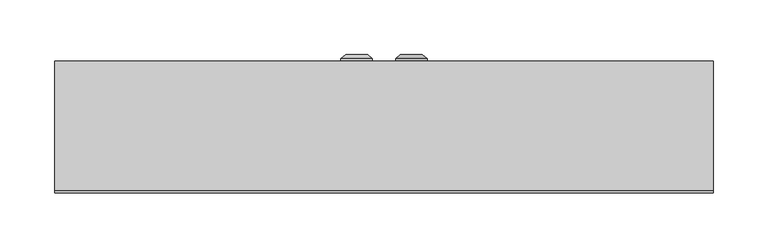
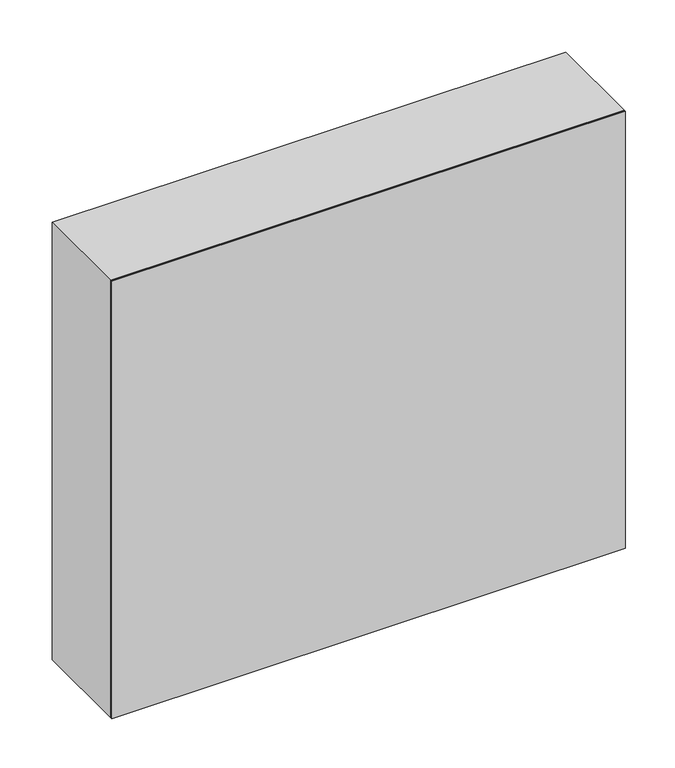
"""IFC4 building model written with IfcOpenShell, lengths in millimetres: proxy geometry, ЩРН_72 : ЩРН-72."""

from ifc_helpers import new_model, si_unit, frame, origin, origin_with_axes, place, context, project, spatial, polyline, circle_curve, outline, extrude, source, transform, mapped, element, save
from ifc_brep_helpers import plane_surface, cylinder_surface, revolved_surface, advanced_brep


def electrical_equipment_fcdb0c0a(model_context):
    return source(origin(), model_context, "Body", "SolidModel", [
        advanced_brep(
        [(-25.0, 120.0, 265.0), (-39.330127, 120.0, 265.0), (-10.669873, 120.0, 265.0), (-39.330127, 122.366592, 265.0), (-10.669873, 122.366592, 265.0), (-35.0, 126.0, 265.0), (-15.0, 126.0, 265.0), (-26.8919529, 126.0, 265.0), (-23.1080471, 126.0, 265.0), (-26.8919529, 124.9822294, 265.0), (-23.1080471, 124.9822294, 265.0), (-25.0, 124.9822294, 265.0)],
        [
            (0, 1),
            (1, 2, circle_curve(frame((-25.0, 120.0, 265.0), z_axis=(0.0, -1.0, 0.0), x_axis=(-1.0, 0.0, 0.0)), 14.330127)),
            (2, 0),
            (2, 1, circle_curve(frame((-25.0, 120.0, 265.0), z_axis=(0.0, -1.0, 0.0), x_axis=(-1.0, 0.0, 0.0)), 14.330127)),
            (1, 3),
            (3, 4, circle_curve(frame((-25.0, 122.366592, 265.0), z_axis=(0.0, -1.0, 0.0), x_axis=(-1.0, 0.0, 0.0)), 14.330127)),
            (4, 2),
            (4, 3, circle_curve(frame((-25.0, 122.366592, 265.0), z_axis=(0.0, -1.0, 0.0), x_axis=(-1.0, 0.0, 0.0)), 14.330127)),
            (3, 5),
            (5, 6, circle_curve(frame((-25.0, 126.0, 265.0), z_axis=(0.0, -1.0, 0.0), x_axis=(-1.0, 0.0, 0.0)), 10.0)),
            (6, 4),
            (6, 5, circle_curve(frame((-25.0, 126.0, 265.0), z_axis=(0.0, -1.0, 0.0), x_axis=(-1.0, 0.0, 0.0)), 10.0)),
            (5, 7),
            (7, 8, circle_curve(frame((-25.0, 126.0, 265.0), z_axis=(0.0, -1.0, 0.0), x_axis=(-1.0, 0.0, 0.0)), 1.8919529)),
            (8, 6),
            (8, 7, circle_curve(frame((-25.0, 126.0, 265.0), z_axis=(0.0, -1.0, 0.0), x_axis=(-1.0, 0.0, 0.0)), 1.8919529)),
            (7, 9),
            (9, 10, circle_curve(frame((-25.0, 124.9822294, 265.0), z_axis=(0.0, -1.0, 0.0), x_axis=(-1.0, 0.0, 0.0)), 1.8919529)),
            (10, 8),
            (10, 9, circle_curve(frame((-25.0, 124.9822294, 265.0), z_axis=(0.0, -1.0, 0.0), x_axis=(-1.0, 0.0, 0.0)), 1.8919529)),
            (9, 11),
            (11, 10),
        ],
        [
            plane_surface(frame((-25.0, 120.0, 265.0), z_axis=(0.0, -1.0, 0.0), x_axis=(-1.0, 0.0, 0.0))),
            cylinder_surface(frame((-25.0, 133.1348851, 265.0), z_axis=(0.0, -1.0, 0.0), x_axis=(-1.0, 0.0, 0.0)), 14.330127),
            revolved_surface(polyline([(-35.0, 126.0, 265.0), (-39.330127, 122.366592, 265.0)]), (-25.0, 133.1348851, 265.0), (0.0, -1.0, 0.0)),
            plane_surface(frame((-25.0, 126.0, 265.0), z_axis=(0.0, 1.0, 0.0), x_axis=(-1.0, 0.0, 0.0))),
            revolved_surface(polyline([(-26.8919529, 124.9822294, 265.0), (-26.8919529, 126.0, 265.0)]), (-25.0, 133.1348851, 265.0), (0.0, -1.0, 0.0)),
            plane_surface(frame((-25.0, 124.9822294, 265.0), z_axis=(0.0, 1.0, 0.0), x_axis=(-1.0, 0.0, 0.0))),
        ],
        [
            (0, [[1, 2, 3]]),
            (0, [[-3, 4, -1]]),
            (1, [[-2, 5, 6, 7]]),
            (1, [[-4, -7, 8, -5]]),
            (2, [[-6, 9, 10, 11]]),
            (2, [[-8, -11, 12, -9]]),
            (3, [[-10, 13, 14, 15]]),
            (3, [[-12, -15, 16, -13]]),
            (4, [[-14, 17, 18, 19]]),
            (4, [[-16, -19, 20, -17]]),
            (5, [[-18, 21, 22]]),
            (5, [[-20, -22, -21]]),
        ],
    ),
        advanced_brep(
        [(10.669873, 120.0, 265.0), (39.330127, 120.0, 265.0), (25.0, 120.0, 265.0), (10.669873, 122.366592, 265.0), (39.330127, 122.366592, 265.0), (15.0, 126.0, 265.0), (35.0, 126.0, 265.0), (23.1080471, 126.0, 265.0), (26.8919529, 126.0, 265.0), (23.1080471, 124.9822294, 265.0), (26.8919529, 124.9822294, 265.0), (25.0, 124.9822294, 265.0)],
        [
            (0, 1, circle_curve(frame((25.0, 120.0, 265.0), z_axis=(0.0, -1.0, 0.0), x_axis=(1.0, 0.0, 0.0)), 14.330127)),
            (1, 2),
            (2, 0),
            (1, 0, circle_curve(frame((25.0, 120.0, 265.0), z_axis=(0.0, -1.0, 0.0), x_axis=(1.0, 0.0, 0.0)), 14.330127)),
            (3, 4, circle_curve(frame((25.0, 122.366592, 265.0), z_axis=(0.0, -1.0, 0.0), x_axis=(1.0, 0.0, 0.0)), 14.330127)),
            (4, 1),
            (0, 3),
            (4, 3, circle_curve(frame((25.0, 122.366592, 265.0), z_axis=(0.0, -1.0, 0.0), x_axis=(1.0, 0.0, 0.0)), 14.330127)),
            (5, 6, circle_curve(frame((25.0, 126.0, 265.0), z_axis=(0.0, -1.0, 0.0), x_axis=(1.0, 0.0, 0.0)), 10.0)),
            (6, 4),
            (3, 5),
            (6, 5, circle_curve(frame((25.0, 126.0, 265.0), z_axis=(0.0, -1.0, 0.0), x_axis=(1.0, 0.0, 0.0)), 10.0)),
            (7, 8, circle_curve(frame((25.0, 126.0, 265.0), z_axis=(0.0, -1.0, 0.0), x_axis=(1.0, 0.0, 0.0)), 1.8919529)),
            (8, 6),
            (5, 7),
            (8, 7, circle_curve(frame((25.0, 126.0, 265.0), z_axis=(0.0, -1.0, 0.0), x_axis=(1.0, 0.0, 0.0)), 1.8919529)),
            (9, 10, circle_curve(frame((25.0, 124.9822294, 265.0), z_axis=(0.0, -1.0, 0.0), x_axis=(1.0, 0.0, 0.0)), 1.8919529)),
            (10, 8),
            (7, 9),
            (10, 9, circle_curve(frame((25.0, 124.9822294, 265.0), z_axis=(0.0, -1.0, 0.0), x_axis=(1.0, 0.0, 0.0)), 1.8919529)),
            (11, 10),
            (9, 11),
        ],
        [
            plane_surface(frame((25.0, 120.0, 265.0), z_axis=(0.0, -1.0, 0.0), x_axis=(1.0, 0.0, 0.0))),
            cylinder_surface(frame((25.0, 133.1348851, 265.0), z_axis=(0.0, 1.0, 0.0), x_axis=(1.0, 0.0, 0.0)), 14.330127),
            revolved_surface(polyline([(39.330127, 122.366592, 265.0), (35.0, 126.0, 265.0)]), (25.0, 133.1348851, 265.0), (0.0, 1.0, 0.0)),
            plane_surface(frame((25.0, 126.0, 265.0), z_axis=(0.0, 1.0, 0.0), x_axis=(1.0, 0.0, 0.0))),
            revolved_surface(polyline([(26.8919529, 126.0, 265.0), (26.8919529, 124.9822294, 265.0)]), (25.0, 133.1348851, 265.0), (0.0, 1.0, 0.0)),
            plane_surface(frame((25.0, 124.9822294, 265.0), z_axis=(0.0, 1.0, 0.0), x_axis=(1.0, 0.0, 0.0))),
        ],
        [
            (0, [[1, 2, 3]]),
            (0, [[4, -3, -2]]),
            (1, [[5, 6, -1, 7]]),
            (1, [[8, -7, -4, -6]]),
            (2, [[9, 10, -5, 11]]),
            (2, [[12, -11, -8, -10]]),
            (3, [[13, 14, -9, 15]]),
            (3, [[16, -15, -12, -14]]),
            (4, [[17, 18, -13, 19]]),
            (4, [[20, -19, -16, -18]]),
            (5, [[21, -17, 22]]),
            (5, [[-22, -20, -21]]),
        ],
    ),
        extrude(outline(polyline([(-1.5, 95.0), (-294.0, 95.0), (-294.0, 120.0), (-1.5, 120.0), (-1.5, 95.0)])), frame((0.0, 0.0, 6.0), z_axis=(0.0, 0.0, 1.0), x_axis=(1.0, 0.0, 0.0)), (0.0, 0.0, 1.0), 528.0),
        extrude(outline(polyline([(294.0, 95.0), (1.5, 95.0), (1.5, 120.0), (294.0, 120.0), (294.0, 95.0)])), frame((0.0, 0.0, 6.0), z_axis=(0.0, 0.0, 1.0), x_axis=(1.0, 0.0, 0.0)), (0.0, 0.0, 1.0), 528.0),
        extrude(outline(polyline([(540.0, -300.0033905), (0.0, -300.0033905), (0.0, 299.9966095), (540.0, 299.9966095), (540.0, -300.0033905)]), holes=[polyline([(535.0, -295.0), (535.0, 295.0), (5.0, 295.0), (5.0, -295.0), (535.0, -295.0)])]), frame((0.0, 2.0, 0.0), z_axis=(0.0, 1.0, 0.0), x_axis=(0.0, 0.0, 1.0)), (0.0, 0.0, 1.0), 118.0),
        extrude(outline(polyline([(300.0, 0.0), (-300.0, 0.0), (-300.0, 2.0), (300.0, 2.0), (300.0, 0.0)])), origin_with_axes(), (0.0, 0.0, 1.0), 540.0),
    ])


if __name__ == "__main__":
    model = new_model("IFC4")
    model_context = context("Model", 3, world=origin())
    ifc_project = project(units=[si_unit("LENGTHUNIT", "METRE", prefix="MILLI")], contexts=[model_context])
    site = spatial("IfcSite", under=ifc_project)
    building = spatial("IfcBuilding", under=site)
    placement = place(None, origin())
    electrical_equipment_shape = electrical_equipment_fcdb0c0a(model_context)
    element("IfcBuildingElementProxy", 1, Name="ЩРН_72 : ЩРН-72", ObjectType="ЩРН_72 : ЩРН-72", at=placement, inside=building, context=model_context, shape_type="MappedRepresentation", body=[
        mapped(electrical_equipment_shape, transform((0.0, 0.0, 0.0), x_axis=(1.0, 0.0, 0.0), y_axis=(0.0, 1.0, 0.0), z_axis=(0.0, 0.0, 1.0))),
    ])
    save(model, "model.ifc")
